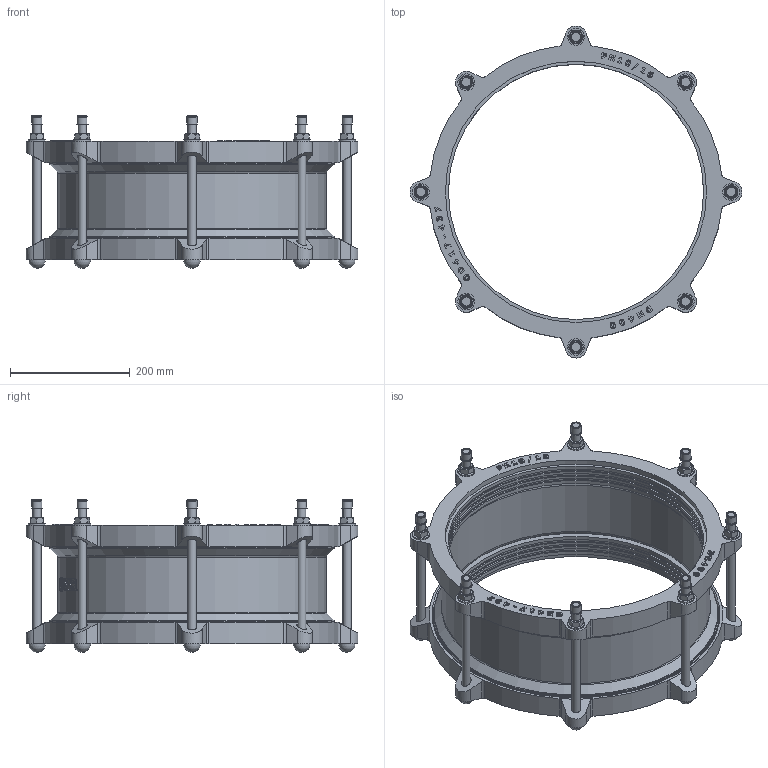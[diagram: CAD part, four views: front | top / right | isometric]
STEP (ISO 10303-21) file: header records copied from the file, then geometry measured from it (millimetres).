
FILE_DESCRIPTION(('STEP AP203'), '1');
FILE_NAME('Cîåäèíèòåëüíàÿ ìóôòà äëÿ æåñòêèõ òðóá', '', ('UNSPECIFIED'), ('UNSPECIFIED'), 'C3D Converter', 'C3D Toolkit', '');
FILE_SCHEMA(('CONFIG_CONTROL_DESIGN'));
Length unit declared in the file: millimetre
Assembly tree (37 placements, depth 2):
  (unnamed)
    (unnamed)
    (unnamed)  x8
    (unnamed)  x8
    (unnamed)  x8
    (unnamed)  x8
    (unnamed)
    (unnamed)
    (unnamed)  x2
Bounding box: 555 x 555 x 255.4 mm (x, y, z)
Volume: 5347042 mm3; surface area: 1376045.7 mm2
Topology: 41 solids, 41 shells, 909 faces, 2195 edges, 1434 vertices
Faces by surface type: plane 396, extrusion 244, cylinder 173, cone 62, torus 26, sphere 8
Full cylindrical faces by diameter (mm): 14 x24, 15 x8, 16 x16, 16.8 x8, 19.6 x8, 23.29 x1, 28 x8, 427 x8, 432 x6, 437 x3, 443 x2, 449 x3, 476 x2, 479 x4
Entity records: 32590 total; most frequent: CARTESIAN_POINT 12319, ORIENTED_EDGE 3394, DIRECTION 2479, EDGE_CURVE 1697, VERTEX_POINT 1160, VECTOR 1093, EDGE_LOOP 851, LINE 849
